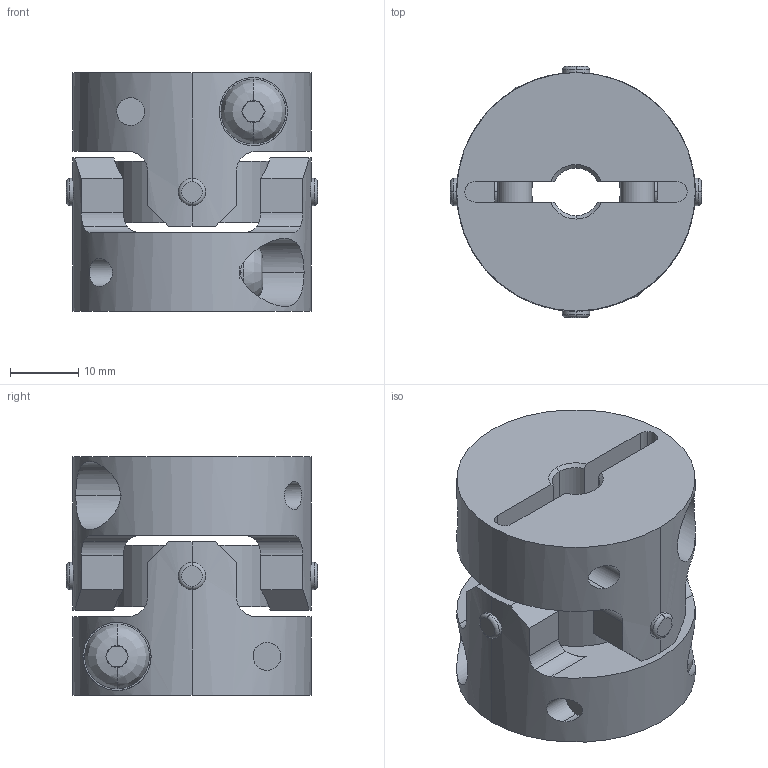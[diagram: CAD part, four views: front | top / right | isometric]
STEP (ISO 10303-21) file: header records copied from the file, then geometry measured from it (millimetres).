
FILE_DESCRIPTION((''),'2;1');
FILE_NAME('UA-35C-7×16.stp','2013-11-12T14:55:26',(''),(''),'AutoCAD STEP 2000i','AutoCAD 2000i',', , ');
FILE_SCHEMA(('CONFIG_CONTROL_DESIGN'));
Length unit declared in the file: millimetre
Products named in the file (7): UA-35C-8×14; 忣兜1; UA-3502-D14; BTN-M5; UA-3502-D08-1; UA-3502-D08; UA35-SEN
Assembly tree (8 placements, depth 3):
  UA-35C-8×14
    忣兜1
    UA-3502-D14
      BTN-M5
    UA-3502-D08-1
      BTN-M5
    UA-3502-D08
      BTN-M5
    UA35-SEN
Bounding box: 36.83 x 36.83 x 35 mm (x, y, z)
Volume: 22269 mm3; surface area: 11718.3 mm2
Topology: 1 solids, 1 shells, 250 faces, 646 edges, 408 vertices
Faces by surface type: plane 122, cylinder 96, cone 16, bspline 8, torus 8
Entity records: 9661 total; most frequent: CARTESIAN_POINT 3385, DIRECTION 1292, ORIENTED_EDGE 1292, EDGE_CURVE 646, AXIS2_PLACEMENT_3D 499, VERTEX_POINT 408, VECTOR 294, LINE 294
